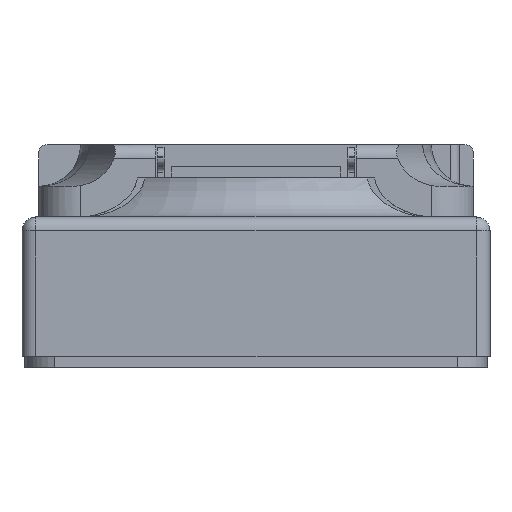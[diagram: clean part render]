
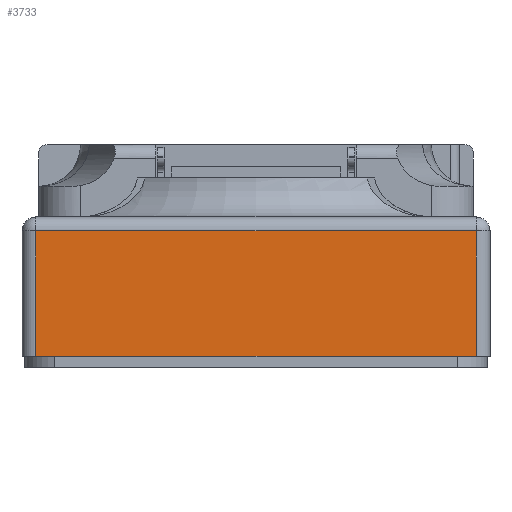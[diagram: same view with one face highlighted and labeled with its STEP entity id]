
A CAD part, front view. The second image highlights one B-rep face of the part: STEP entity #3733.
In plain terms, the highlighted planar face has unit normal (0, -1, 0).
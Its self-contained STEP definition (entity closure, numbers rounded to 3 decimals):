
#1090 = EDGE_LOOP ( 'NONE', ( #4421, #4422, #4423, #4424 ) ) ;
#2711 = VERTEX_POINT ( 'NONE', #10030 ) ;
#2750 = VERTEX_POINT ( 'NONE', #10069 ) ;
#2771 = VERTEX_POINT ( 'NONE', #10090 ) ;
#2773 = VERTEX_POINT ( 'NONE', #10092 ) ;
#3733 = ADVANCED_FACE ( 'NONE', ( #12347 ), #13515, .F. ) ;
#4421 = ORIENTED_EDGE ( 'NONE', *, *, #4683, .T. ) ;
#4422 = ORIENTED_EDGE ( 'NONE', *, *, #4684, .T. ) ;
#4423 = ORIENTED_EDGE ( 'NONE', *, *, #4653, .T. ) ;
#4424 = ORIENTED_EDGE ( 'NONE', *, *, #4685, .T. ) ;
#4653 = EDGE_CURVE ( 'NONE', #2711, #2750, #12848, .T. ) ;
#4683 = EDGE_CURVE ( 'NONE', #2773, #2771, #12897, .T. ) ;
#4684 = EDGE_CURVE ( 'NONE', #2771, #2711, #12899, .T. ) ;
#4685 = EDGE_CURVE ( 'NONE', #2750, #2773, #12901, .T. ) ;
#9150 = AXIS2_PLACEMENT_3D ( 'NONE', #13508, #13517, #13518 ) ;
#10030 = CARTESIAN_POINT ( 'NONE',  ( 5., 0., 0. ) ) ;
#10069 = CARTESIAN_POINT ( 'NONE',  ( 163., 0., 0. ) ) ;
#10090 = CARTESIAN_POINT ( 'NONE',  ( 5., 0., 45. ) ) ;
#10092 = CARTESIAN_POINT ( 'NONE',  ( 163., 0., 45. ) ) ;
#12347 = FACE_OUTER_BOUND ( 'NONE', #1090, .T. ) ;
#12848 = LINE ( 'NONE', #15062, #12850 ) ;
#12850 = VECTOR ( 'NONE', #15059, 1000. ) ;
#12897 = LINE ( 'NONE', #15134, #12900 ) ;
#12899 = LINE ( 'NONE', #15136, #12902 ) ;
#12900 = VECTOR ( 'NONE', #15135, 1000. ) ;
#12901 = LINE ( 'NONE', #15138, #12904 ) ;
#12902 = VECTOR ( 'NONE', #15137, 1000. ) ;
#12904 = VECTOR ( 'NONE', #15139, 1000. ) ;
#13508 = CARTESIAN_POINT ( 'NONE',  ( 0., 0., 50. ) ) ;
#13515 = PLANE ( 'NONE',  #9150 ) ;
#13517 = DIRECTION ( 'NONE',  ( 0., 1., 0. ) ) ;
#13518 = DIRECTION ( 'NONE',  ( 0., 0., 1. ) ) ;
#15059 = DIRECTION ( 'NONE',  ( 1., 0., 0. ) ) ;
#15062 = CARTESIAN_POINT ( 'NONE',  ( 0., 0., 0. ) ) ;
#15134 = CARTESIAN_POINT ( 'NONE',  ( 0., 0., 45. ) ) ;
#15135 = DIRECTION ( 'NONE',  ( -1., 0., 0. ) ) ;
#15136 = CARTESIAN_POINT ( 'NONE',  ( 5., 0., 50. ) ) ;
#15137 = DIRECTION ( 'NONE',  ( 0., 0., -1. ) ) ;
#15138 = CARTESIAN_POINT ( 'NONE',  ( 163., 0., 50. ) ) ;
#15139 = DIRECTION ( 'NONE',  ( 0., 0., 1. ) ) ;
